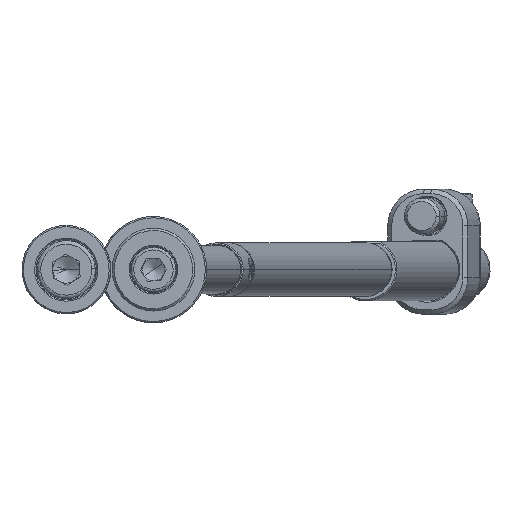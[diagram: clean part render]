
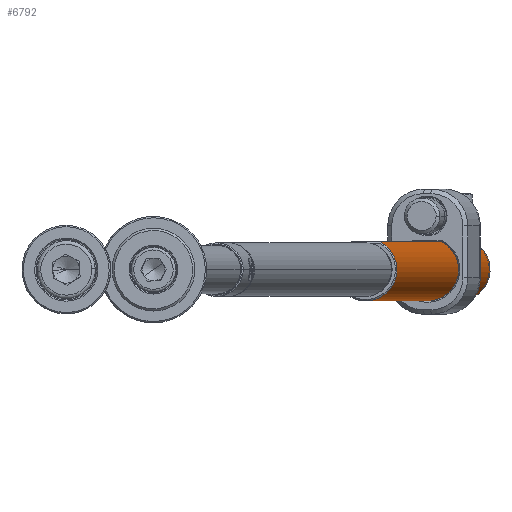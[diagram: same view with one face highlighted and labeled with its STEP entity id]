
A CAD part, front view. The second image highlights one B-rep face of the part: STEP entity #6792.
In plain terms, the highlighted cylindrical face has radius 7 mm (diameter 14 mm), a partial arc.
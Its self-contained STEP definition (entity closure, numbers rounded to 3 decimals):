
#191 = CARTESIAN_POINT ( 'NONE',  ( 6.2, -3.25, 7.5 ) ) ;
#378 = VECTOR ( 'NONE', #13691, 1000. ) ;
#508 = B_SPLINE_CURVE_WITH_KNOTS ( 'NONE', 3,
 ( #9304, #4771, #10526, #2739 ),
 .UNSPECIFIED., .F., .F.,
 ( 4, 4 ),
 ( 0., 0. ),
 .UNSPECIFIED. ) ;
#2622 = VECTOR ( 'NONE', #3998, 1000. ) ;
#2678 = AXIS2_PLACEMENT_3D ( 'NONE', #13512, #5483, #5698 ) ;
#2706 = ORIENTED_EDGE ( 'NONE', *, *, #8198, .F. ) ;
#2739 = CARTESIAN_POINT ( 'NONE',  ( 6.1, -3.434, 7.948 ) ) ;
#2918 = CARTESIAN_POINT ( 'NONE',  ( 5.876, -3.805, 8.752 ) ) ;
#3001 = CARTESIAN_POINT ( 'NONE',  ( 6.049, -3.524, 8.099 ) ) ;
#3069 = ORIENTED_EDGE ( 'NONE', *, *, #7348, .T. ) ;
#3664 = EDGE_LOOP ( 'NONE', ( #7817, #5087, #3069, #2706, #5123, #6205, #10312, #9083 ) ) ;
#3842 = CARTESIAN_POINT ( 'NONE',  ( -7., 0., 200. ) ) ;
#3872 = VECTOR ( 'NONE', #6508, 1000. ) ;
#3998 = DIRECTION ( 'NONE',  ( 0., 0., -1. ) ) ;
#4166 = VERTEX_POINT ( 'NONE', #191 ) ;
#4397 = CARTESIAN_POINT ( 'NONE',  ( 0., 0., 0.3 ) ) ;
#4415 = EDGE_CURVE ( 'NONE', #4166, #10813, #508, .T. ) ;
#4642 = CARTESIAN_POINT ( 'NONE',  ( 6.164, -3.317, 12.354 ) ) ;
#4771 = CARTESIAN_POINT ( 'NONE',  ( 6.164, -3.317, 7.646 ) ) ;
#4878 = LINE ( 'NONE', #3842, #378 ) ;
#5055 = CARTESIAN_POINT ( 'NONE',  ( 6.2, -3.25, 199.7 ) ) ;
#5087 = ORIENTED_EDGE ( 'NONE', *, *, #10104, .T. ) ;
#5091 = CARTESIAN_POINT ( 'NONE',  ( 5.745, -4., 10.372 ) ) ;
#5123 = ORIENTED_EDGE ( 'NONE', *, *, #4415, .T. ) ;
#5157 = B_SPLINE_CURVE_WITH_KNOTS ( 'NONE', 3,
 ( #5578, #5720, #4642, #12115 ),
 .UNSPECIFIED., .F., .F.,
 ( 4, 4 ),
 ( 0., 0. ),
 .UNSPECIFIED. ) ;
#5483 = DIRECTION ( 'NONE',  ( 0., 0., -1. ) ) ;
#5578 = CARTESIAN_POINT ( 'NONE',  ( 6.1, -3.434, 12.052 ) ) ;
#5591 = VERTEX_POINT ( 'NONE', #5055 ) ;
#5698 = DIRECTION ( 'NONE',  ( 1., 0., 0. ) ) ;
#5720 = CARTESIAN_POINT ( 'NONE',  ( 6.131, -3.379, 12.204 ) ) ;
#5872 = CARTESIAN_POINT ( 'NONE',  ( -7., 0., 199.7 ) ) ;
#6095 = CARTESIAN_POINT ( 'NONE',  ( 5.915, -3.744, 11.42 ) ) ;
#6169 = AXIS2_PLACEMENT_3D ( 'NONE', #11123, #7841, #13530 ) ;
#6205 = ORIENTED_EDGE ( 'NONE', *, *, #6310, .F. ) ;
#6310 = EDGE_CURVE ( 'NONE', #12831, #10813, #13575, .T. ) ;
#6472 = CARTESIAN_POINT ( 'NONE',  ( 5.915, -3.744, 8.582 ) ) ;
#6508 = DIRECTION ( 'NONE',  ( 0., 0., -1. ) ) ;
#6632 = VERTEX_POINT ( 'NONE', #5872 ) ;
#6664 = FACE_OUTER_BOUND ( 'NONE', #3664, .T. ) ;
#6745 = CYLINDRICAL_SURFACE ( 'NONE', #6169, 7. ) ;
#6792 = ADVANCED_FACE ( 'NONE', ( #6664 ), #6745, .T. ) ;
#6876 = DIRECTION ( 'NONE',  ( 1., 0., 0. ) ) ;
#7187 = EDGE_CURVE ( 'NONE', #5591, #6632, #8952, .T. ) ;
#7348 = EDGE_CURVE ( 'NONE', #8589, #9636, #9209, .T. ) ;
#7817 = ORIENTED_EDGE ( 'NONE', *, *, #7187, .T. ) ;
#7841 = DIRECTION ( 'NONE',  ( 0., 0., -1. ) ) ;
#8067 = EDGE_CURVE ( 'NONE', #12831, #11008, #5157, .T. ) ;
#8198 = EDGE_CURVE ( 'NONE', #4166, #9636, #13122, .T. ) ;
#8256 = AXIS2_PLACEMENT_3D ( 'NONE', #4397, #8849, #6876 ) ;
#8302 = CARTESIAN_POINT ( 'NONE',  ( 6.002, -3.604, 11.745 ) ) ;
#8589 = VERTEX_POINT ( 'NONE', #10496 ) ;
#8849 = DIRECTION ( 'NONE',  ( 0., 0., 1. ) ) ;
#8952 = CIRCLE ( 'NONE', #2678, 7. ) ;
#9083 = ORIENTED_EDGE ( 'NONE', *, *, #9783, .F. ) ;
#9209 = CIRCLE ( 'NONE', #8256, 7. ) ;
#9304 = CARTESIAN_POINT ( 'NONE',  ( 6.2, -3.25, 7.5 ) ) ;
#9487 = CARTESIAN_POINT ( 'NONE',  ( 6.1, -3.434, 12.052 ) ) ;
#9636 = VERTEX_POINT ( 'NONE', #14167 ) ;
#9783 = EDGE_CURVE ( 'NONE', #5591, #11008, #14262, .T. ) ;
#9973 = CARTESIAN_POINT ( 'NONE',  ( 6.2, -3.25, 12.5 ) ) ;
#10104 = EDGE_CURVE ( 'NONE', #6632, #8589, #4878, .T. ) ;
#10312 = ORIENTED_EDGE ( 'NONE', *, *, #8067, .T. ) ;
#10445 = CARTESIAN_POINT ( 'NONE',  ( 6.1, -3.434, 12.052 ) ) ;
#10496 = CARTESIAN_POINT ( 'NONE',  ( -7., 0., 0.3 ) ) ;
#10526 = CARTESIAN_POINT ( 'NONE',  ( 6.131, -3.379, 7.796 ) ) ;
#10546 = CARTESIAN_POINT ( 'NONE',  ( 6.1, -3.434, 7.948 ) ) ;
#10564 = CARTESIAN_POINT ( 'NONE',  ( 5.781, -3.95, 10.729 ) ) ;
#10635 = CARTESIAN_POINT ( 'NONE',  ( 5.876, -3.804, 11.25 ) ) ;
#10705 = CARTESIAN_POINT ( 'NONE',  ( 6.1, -3.434, 7.948 ) ) ;
#10813 = VERTEX_POINT ( 'NONE', #10546 ) ;
#11008 = VERTEX_POINT ( 'NONE', #9973 ) ;
#11123 = CARTESIAN_POINT ( 'NONE',  ( 0., 0., 200. ) ) ;
#12071 = CARTESIAN_POINT ( 'NONE',  ( 6.2, -3.25, 200. ) ) ;
#12115 = CARTESIAN_POINT ( 'NONE',  ( 6.2, -3.25, 12.5 ) ) ;
#12831 = VERTEX_POINT ( 'NONE', #10445 ) ;
#12871 = CARTESIAN_POINT ( 'NONE',  ( 5.78, -3.95, 9.275 ) ) ;
#13122 = LINE ( 'NONE', #13957, #3872 ) ;
#13161 = CARTESIAN_POINT ( 'NONE',  ( 6.001, -3.604, 8.256 ) ) ;
#13512 = CARTESIAN_POINT ( 'NONE',  ( 0., 0., 199.7 ) ) ;
#13530 = DIRECTION ( 'NONE',  ( -1., 0., 0. ) ) ;
#13575 = B_SPLINE_CURVE_WITH_KNOTS ( 'NONE', 3,
 ( #9487, #13834, #8302, #6095, #10635, #10564, #5091, #13990, #12871, #2918, #6472, #13161, #3001, #10705 ),
 .UNSPECIFIED., .F., .F.,
 ( 4, 2, 2, 2, 2, 2, 4 ),
 ( 0., 0.001, 0.001, 0.003, 0.004, 0.004, 0.005 ),
 .UNSPECIFIED. ) ;
#13691 = DIRECTION ( 'NONE',  ( 0., 0., -1. ) ) ;
#13834 = CARTESIAN_POINT ( 'NONE',  ( 6.049, -3.524, 11.901 ) ) ;
#13957 = CARTESIAN_POINT ( 'NONE',  ( 6.2, -3.25, 200. ) ) ;
#13990 = CARTESIAN_POINT ( 'NONE',  ( 5.744, -4., 9.635 ) ) ;
#14167 = CARTESIAN_POINT ( 'NONE',  ( 6.2, -3.25, 0.3 ) ) ;
#14262 = LINE ( 'NONE', #12071, #2622 ) ;
